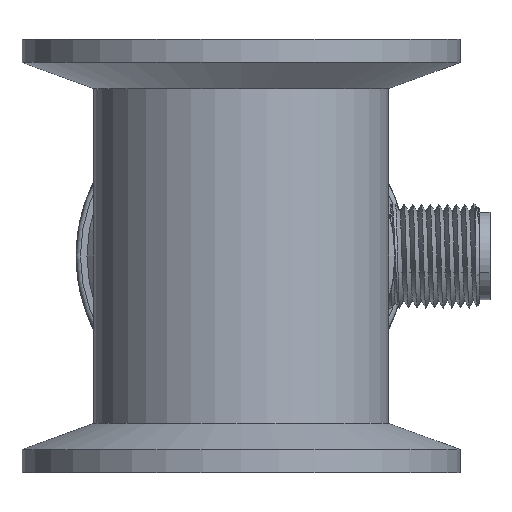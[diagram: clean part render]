
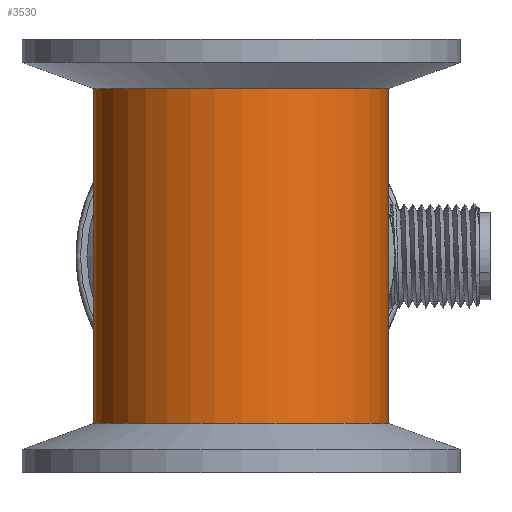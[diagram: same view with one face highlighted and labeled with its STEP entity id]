
A CAD part, front view. The second image highlights one B-rep face of the part: STEP entity #3530.
In plain terms, the highlighted cylindrical face has radius 17 mm (diameter 34 mm), a full revolution.
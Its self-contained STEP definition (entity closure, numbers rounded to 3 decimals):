
#2273=FACE_BOUND('',#5273,.T.);
#2274=FACE_BOUND('',#5274,.T.);
#2275=FACE_BOUND('',#5275,.T.);
#2443=CYLINDRICAL_SURFACE('',#15241,17.);
#2810=CIRCLE('',#15239,17.);
#2811=CIRCLE('',#15240,17.);
#3530=ADVANCED_FACE('',(#2273,#2274,#2275),#2443,.T.);
#5273=EDGE_LOOP('',(#9473,#9474,#9475,#9476,#9477,#9478));
#5274=EDGE_LOOP('',(#9479));
#5275=EDGE_LOOP('',(#9480));
#5993=B_SPLINE_CURVE_WITH_KNOTS('',3,(#31630,#31631,#31632,#31633),
 .UNSPECIFIED.,.F.,.F.,(4,4),(0.,1.),.UNSPECIFIED.);
#5999=B_SPLINE_CURVE_WITH_KNOTS('',3,(#31714,#31715,#31716,#31717,#31718,
#31719,#31720,#31721,#31722,#31723),.UNSPECIFIED.,.F.,.F.,(4,2,2,2,4),(0.,
0.25,0.5,0.75,1.),.UNSPECIFIED.);
#6000=B_SPLINE_CURVE_WITH_KNOTS('',3,(#31727,#31728,#31729,#31730,#31731,
#31732,#31733,#31734,#31735,#31736),.UNSPECIFIED.,.F.,.F.,(4,2,2,2,4),(0.,
0.25,0.5,0.75,1.),.UNSPECIFIED.);
#9473=ORIENTED_EDGE('',*,*,#12539,.F.);
#9474=ORIENTED_EDGE('',*,*,#12521,.T.);
#9475=ORIENTED_EDGE('',*,*,#12540,.F.);
#9476=ORIENTED_EDGE('',*,*,#12541,.F.);
#9477=ORIENTED_EDGE('',*,*,#12542,.F.);
#9478=ORIENTED_EDGE('',*,*,#12543,.F.);
#9479=ORIENTED_EDGE('',*,*,#12544,.T.);
#9480=ORIENTED_EDGE('',*,*,#12545,.T.);
#10747=VERTEX_POINT('',#31629);
#10748=VERTEX_POINT('',#31634);
#10765=VERTEX_POINT('',#31711);
#10766=VERTEX_POINT('',#31713);
#10767=VERTEX_POINT('',#31724);
#10768=VERTEX_POINT('',#31726);
#10769=VERTEX_POINT('',#31738);
#10770=VERTEX_POINT('',#31740);
#12521=EDGE_CURVE('',#10748,#10747,#5993,.T.);
#12539=EDGE_CURVE('',#10748,#10765,#13399,.T.);
#12540=EDGE_CURVE('',#10766,#10747,#13400,.T.);
#12541=EDGE_CURVE('',#10767,#10766,#5999,.T.);
#12542=EDGE_CURVE('',#10768,#10767,#13401,.T.);
#12543=EDGE_CURVE('',#10765,#10768,#6000,.T.);
#12544=EDGE_CURVE('',#10769,#10769,#2810,.T.);
#12545=EDGE_CURVE('',#10770,#10770,#2811,.T.);
#13399=LINE('',#31710,#14350);
#13400=LINE('',#31712,#14351);
#13401=LINE('',#31725,#14352);
#14350=VECTOR('',#18020,1.);
#14351=VECTOR('',#18021,1.);
#14352=VECTOR('',#18022,1.);
#15239=AXIS2_PLACEMENT_3D('',#31737,#18023,#18024);
#15240=AXIS2_PLACEMENT_3D('',#31739,#18025,#18026);
#15241=AXIS2_PLACEMENT_3D('',#31741,#18027,#18028);
#18020=DIRECTION('',(0.,0.,1.));
#18021=DIRECTION('',(0.,0.,1.));
#18022=DIRECTION('',(0.,0.,-1.));
#18023=DIRECTION('',(0.,0.,1.));
#18024=DIRECTION('',(-1.,0.,0.));
#18025=DIRECTION('',(0.,0.,-1.));
#18026=DIRECTION('',(1.,0.,0.));
#18027=DIRECTION('',(0.,0.,-1.));
#18028=DIRECTION('',(1.,0.,0.));
#31629=CARTESIAN_POINT('',(-8.,13.5,142.5));
#31630=CARTESIAN_POINT('',(-8.,13.5,143.5));
#31631=CARTESIAN_POINT('',(-8.014,13.493,143.167));
#31632=CARTESIAN_POINT('',(-8.014,13.493,142.833));
#31633=CARTESIAN_POINT('',(-8.,13.5,142.5));
#31634=CARTESIAN_POINT('',(-8.,13.5,143.5));
#31710=CARTESIAN_POINT('',(-8.,13.5,199.5));
#31711=CARTESIAN_POINT('',(-8.,13.5,151.897));
#31712=CARTESIAN_POINT('',(-8.,13.5,199.5));
#31713=CARTESIAN_POINT('',(-8.,13.5,134.103));
#31714=CARTESIAN_POINT('',(8.,13.5,134.132));
#31715=CARTESIAN_POINT('',(7.03,14.017,133.002));
#31716=CARTESIAN_POINT('',(5.883,14.513,132.074));
#31717=CARTESIAN_POINT('',(3.139,15.268,130.709));
#31718=CARTESIAN_POINT('',(1.587,15.497,130.325));
#31719=CARTESIAN_POINT('',(-1.528,15.503,130.312));
#31720=CARTESIAN_POINT('',(-3.095,15.277,130.687));
#31721=CARTESIAN_POINT('',(-5.845,14.527,132.031));
#31722=CARTESIAN_POINT('',(-7.025,14.02,132.974));
#31723=CARTESIAN_POINT('',(-8.,13.5,134.103));
#31724=CARTESIAN_POINT('',(8.,13.5,134.132));
#31725=CARTESIAN_POINT('',(8.,13.5,199.5));
#31726=CARTESIAN_POINT('',(8.,13.5,151.868));
#31727=CARTESIAN_POINT('',(-8.,13.5,151.897));
#31728=CARTESIAN_POINT('',(-7.027,14.019,153.023));
#31729=CARTESIAN_POINT('',(-5.877,14.515,153.947));
#31730=CARTESIAN_POINT('',(-3.128,15.27,155.303));
#31731=CARTESIAN_POINT('',(-1.575,15.498,155.681));
#31732=CARTESIAN_POINT('',(1.541,15.502,155.683));
#31733=CARTESIAN_POINT('',(3.106,15.274,155.302));
#31734=CARTESIAN_POINT('',(5.851,14.525,153.948));
#31735=CARTESIAN_POINT('',(7.028,14.018,153.001));
#31736=CARTESIAN_POINT('',(8.,13.5,151.868));
#31737=CARTESIAN_POINT('',(0.,-1.5,123.703));
#31738=CARTESIAN_POINT('',(-17.,-1.5,123.703));
#31739=CARTESIAN_POINT('',(0.,-1.5,162.297));
#31740=CARTESIAN_POINT('',(17.,-1.5,162.297));
#31741=CARTESIAN_POINT('',(0.,-1.5,199.5));
